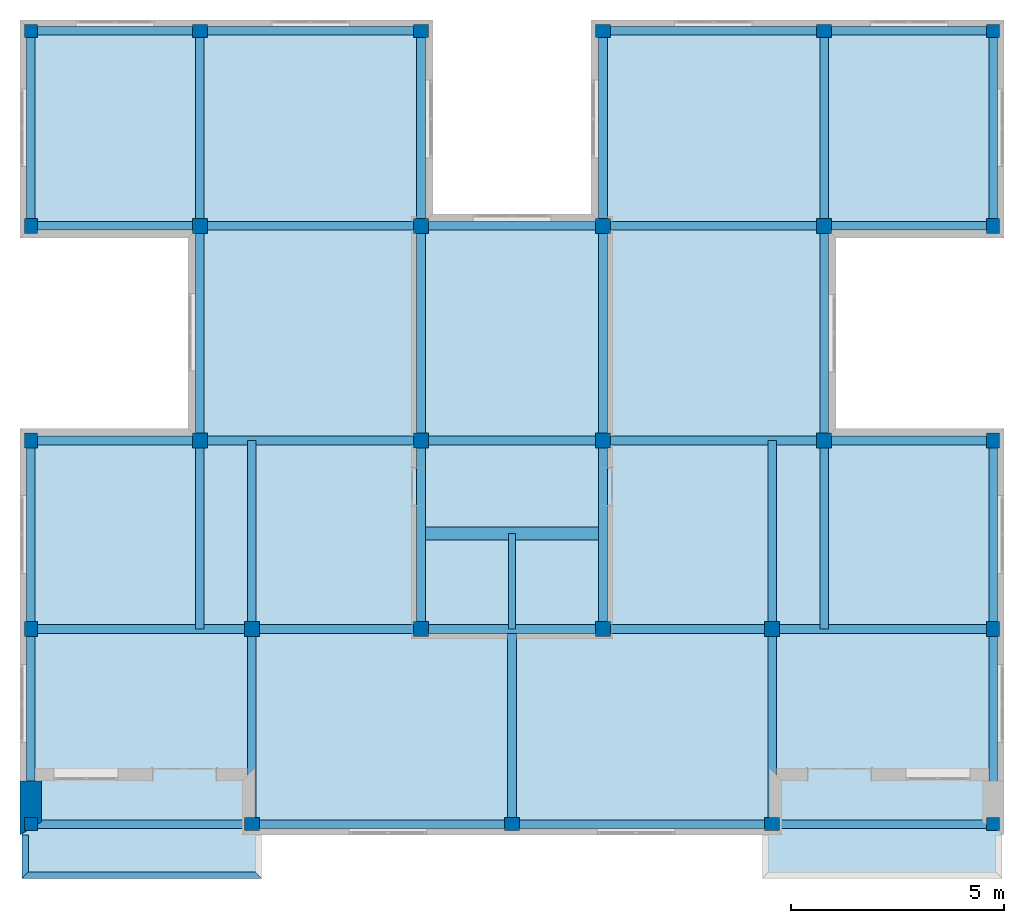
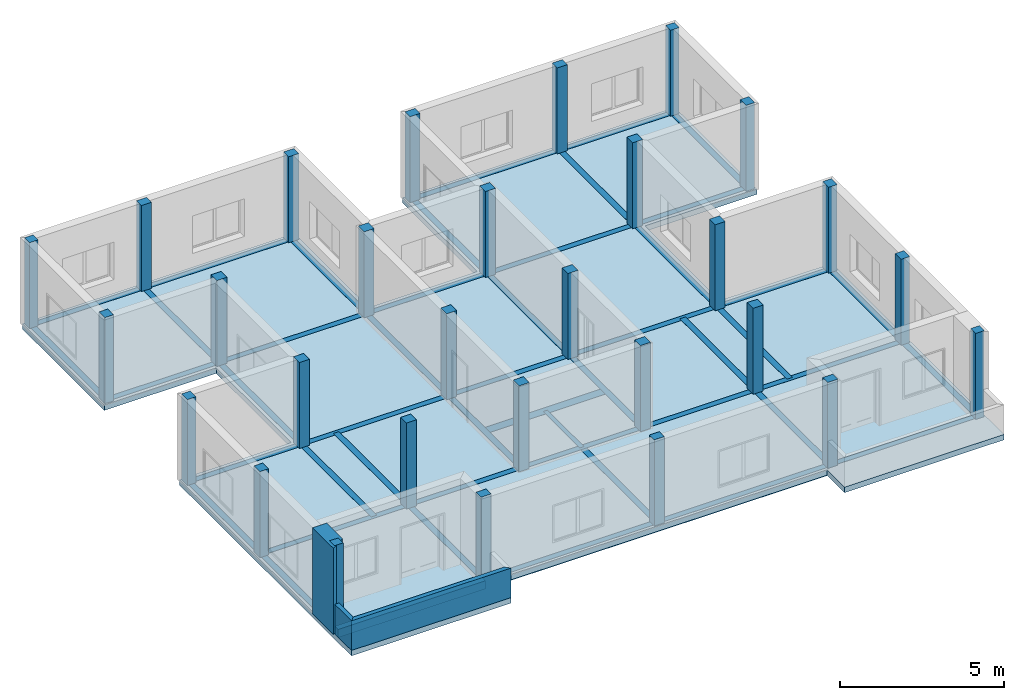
# One storey, part 1 of 6: 48 beams, 29 columns, 3 walls, 1 slab.
"""IFC2X3 building model written with IfcOpenShell, lengths in millimetres."""

from ifc_helpers import new_model, entity, si_unit, converted_unit, direction, frame, frame_2d, origin_with_axes, origin_2d_with_axis, place, context, subcontext, project, spatial, polyline, rectangle, outline, extrude, material, layer, layer_set, layer_usage, type_object, element, save


model = new_model("IFC2X3")

# Units and contexts
model_context = context("Model", 3, precision=1e-05, world=origin_with_axes(), true_north=direction((0.0, 1.0)))
body_context = subcontext(model_context, "Body", "Model", "MODEL_VIEW")
ifc_project = project(units=[si_unit("LENGTHUNIT", "METRE", prefix="MILLI"), si_unit("AREAUNIT", "SQUARE_METRE"), si_unit("VOLUMEUNIT", "CUBIC_METRE"), converted_unit("PLANEANGLEUNIT", "DEGREE", entity("IfcPlaneAngleMeasure", 0.017453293), si_unit("PLANEANGLEUNIT", "RADIAN"), dimensions=[0, 0, 0, 0, 0, 0, 0]), si_unit("SOLIDANGLEUNIT", "STERADIAN"), si_unit("MASSUNIT", "GRAM"), si_unit("TIMEUNIT", "SECOND"), si_unit("THERMODYNAMICTEMPERATUREUNIT", "DEGREE_CELSIUS"), si_unit("LUMINOUSINTENSITYUNIT", "LUMEN")], contexts=[model_context])

# Site, building, storey
site_placement = place(None, origin_with_axes())
site = spatial("IfcSite", under=ifc_project, at=site_placement, Name="Sitio", CompositionType="ELEMENT")
building_placement = place(site_placement, origin_with_axes())
building = spatial("IfcBuilding", under=site, at=building_placement, Name="Ejemplo_StruBIM", CompositionType="ELEMENT")
storey_placement = place(building_placement, frame((0.0, 0.0, 12801.6), z_axis=(0.0, 0.0, 1.0), x_axis=(1.0, 0.0, 0.0)))
storey = spatial("IfcBuildingStorey", under=building, at=storey_placement, Name="Fourth floor", CompositionType="ELEMENT", Elevation=12801.6)

# Columns
ifc_material_1 = material(Name="Hormigón armado")
column_type_1 = type_object("IfcColumnType", Name="12\"X12\"", PredefinedType="NOTDEFINED")
for number, where, z_axis, x_axis, name in (
    (1, (0.0, 0.0, 0.0), (0.0, 0.0, 1.0), (1.0, 0.0, 0.0), "P1"),
    (2, (0.0, 18592.8, 0.0), (0.0, 0.0, 1.0), (1.0, 0.0, 0.0), "P24"),
    (3, (22555.2, 0.0, 0.0), (0.0, 0.0, 1.0), (1.0, 0.0, 0.0), "P5"),
    (4, (22555.2, 18592.8, 0.0), (0.0, 0.0, 1.0), (1.0, 0.0, 0.0), "P29"),
):
    element("IfcColumn", number, at=place(storey_placement, frame(where, z_axis=z_axis, x_axis=x_axis)), inside=storey, type_object=column_type_1, material=ifc_material_1, Name=name, ObjectType="12\"X12\"", context=body_context, shape_type="SweptSolid", body=[
        extrude(rectangle(XDim=304.8, YDim=304.8, at=origin_2d_with_axis()), origin_with_axes(), (0.0, 0.0, 1.0), 3200.4),
    ])
column_type_2 = type_object("IfcColumnType", Name="12\"X14\"", PredefinedType="NOTDEFINED")
for number, where, z_axis, x_axis, name in (
    (5, (0.0, 4572.0, 0.0), (0.0, 0.0, 1.0), (1.0, 0.0, 0.0), "Pilar-004"),
    (6, (0.0, 8991.6, 0.0), (0.0, 0.0, 1.0), (1.0, 0.0, 0.0), "P12"),
    (7, (0.0, 14020.8, 0.0), (0.0, 0.0, 1.0), (1.0, 0.0, 0.0), "P18"),
    (8, (22555.2, 4572.0, 0.0), (0.0, 0.0, 1.0), (1.0, 0.0, 0.0), "Pilar-004"),
    (9, (22555.2, 8991.6, 0.0), (0.0, 0.0, 1.0), (1.0, 0.0, 0.0), "P17"),
    (10, (22555.2, 14020.8, 0.0), (0.0, 0.0, 1.0), (1.0, 0.0, 0.0), "P23"),
):
    element("IfcColumn", number, at=place(storey_placement, frame(where, z_axis=z_axis, x_axis=x_axis)), inside=storey, type_object=column_type_2, material=ifc_material_1, Name=name, ObjectType="12\"X14\"", context=body_context, shape_type="SweptSolid", body=[
        extrude(rectangle(XDim=304.8, YDim=355.6, at=origin_2d_with_axis()), origin_with_axes(), (0.0, 0.0, 1.0), 3200.4),
    ])
column_type_3 = type_object("IfcColumnType", Name="14\"X12\"", PredefinedType="NOTDEFINED")
for number, where, z_axis, x_axis, name in (
    (11, (5181.6, 0.0, 0.0), (0.0, 0.0, 1.0), (1.0, 0.0, 0.0), "P2"),
    (12, (11277.6, 0.0, 0.0), (0.0, 0.0, 1.0), (1.0, 0.0, 0.0), "P3"),
    (13, (9144.0, 18592.8, 0.0), (0.0, 0.0, 1.0), (1.0, 0.0, 0.0), "P26"),
    (14, (3962.4, 18592.8, 0.0), (0.0, 0.0, 1.0), (1.0, 0.0, 0.0), "P25"),
    (15, (17373.6, 0.0, 0.0), (0.0, 0.0, 1.0), (1.0, 0.0, 0.0), "P4"),
    (16, (13411.2, 18592.8, 0.0), (0.0, 0.0, 1.0), (1.0, 0.0, 0.0), "P27"),
    (17, (18592.8, 18592.8, 0.0), (0.0, 0.0, 1.0), (1.0, 0.0, 0.0), "P28"),
):
    element("IfcColumn", number, at=place(storey_placement, frame(where, z_axis=z_axis, x_axis=x_axis)), inside=storey, type_object=column_type_3, material=ifc_material_1, Name=name, ObjectType="14\"X12\"", context=body_context, shape_type="SweptSolid", body=[
        extrude(rectangle(XDim=355.6, YDim=304.8, at=origin_2d_with_axis()), origin_with_axes(), (0.0, 0.0, 1.0), 3200.4),
    ])
column_type_4 = type_object("IfcColumnType", Name="14\"X14\"", PredefinedType="NOTDEFINED")
for number, where, z_axis, x_axis, name in (
    (18, (5181.6, 4572.0, 0.0), (0.0, 0.0, 1.0), (1.0, 0.0, 0.0), "Pilar-004"),
    (19, (3962.4, 8991.6, 0.0), (0.0, 0.0, 1.0), (1.0, 0.0, 0.0), "P13"),
    (20, (3962.4, 14020.8, 0.0), (0.0, 0.0, 1.0), (1.0, 0.0, 0.0), "P19"),
    (21, (9144.0, 14020.8, 0.0), (0.0, 0.0, 1.0), (1.0, 0.0, 0.0), "P20"),
    (22, (9144.0, 8991.6, 0.0), (0.0, 0.0, 1.0), (1.0, 0.0, 0.0), "P14"),
    (23, (9144.0, 4572.0, 0.0), (0.0, 0.0, 1.0), (1.0, 0.0, 0.0), "Pilar-004"),
    (24, (17373.6, 4572.0, 0.0), (0.0, 0.0, 1.0), (1.0, 0.0, 0.0), "Pilar-004"),
    (25, (18592.8, 8991.6, 0.0), (0.0, 0.0, 1.0), (1.0, 0.0, 0.0), "P16"),
    (26, (18592.8, 14020.8, 0.0), (0.0, 0.0, 1.0), (1.0, 0.0, 0.0), "P22"),
    (27, (13411.2, 14020.8, 0.0), (0.0, 0.0, 1.0), (1.0, 0.0, 0.0), "P21"),
    (28, (13411.2, 8991.6, 0.0), (0.0, 0.0, 1.0), (1.0, 0.0, 0.0), "P15"),
    (29, (13411.2, 4572.0, 0.0), (0.0, 0.0, 1.0), (1.0, 0.0, 0.0), "Pilar-004"),
):
    element("IfcColumn", number, at=place(storey_placement, frame(where, z_axis=z_axis, x_axis=x_axis)), inside=storey, type_object=column_type_4, material=ifc_material_1, Name=name, ObjectType="14\"X14\"", context=body_context, shape_type="SweptSolid", body=[
        extrude(rectangle(XDim=355.6, YDim=355.6, at=origin_2d_with_axis()), origin_with_axes(), (0.0, 0.0, 1.0), 3200.4),
    ])

# Beams
beam_type_1 = type_object("IfcBeamType", Name="12\"X8\"", PredefinedType="NOTDEFINED")
beam_1_placement = place(storey_placement, frame((3962.4, 18592.8, 0.0), z_axis=(0.0, 0.0, 1.0), x_axis=(-1.0, 0.0, 0.0)))
element("IfcBeam", 30, at=beam_1_placement, inside=storey, type_object=beam_type_1, material=ifc_material_1, Name="Viga-028", ObjectType="12\"X8\"", context=body_context, shape_type="SweptSolid", body=[
    extrude(rectangle(XDim=304.8, YDim=203.2, at=frame_2d((-152.4, 0.0), x_axis=(1.0, 0.0))), frame((0.0, 0.0, 0.0), z_axis=(0.0, 1.0, 0.0), x_axis=(0.0, 0.0, 1.0)), (0.0, 0.0, 1.0), 4572.0),
])
beam_2_placement = place(storey_placement, frame((3962.4, 18592.8, 0.0), z_axis=(0.0, 0.0, 1.0), x_axis=(0.0, -1.0, 0.0)))
element("IfcBeam", 31, at=beam_2_placement, inside=storey, type_object=beam_type_1, material=ifc_material_1, Name="Viga-028", ObjectType="12\"X8\"", context=body_context, shape_type="SweptSolid", body=[
    extrude(rectangle(XDim=304.8, YDim=203.2, at=frame_2d((-152.4, 0.0), x_axis=(1.0, 0.0))), frame((0.0, 0.0, 0.0), z_axis=(0.0, 1.0, 0.0), x_axis=(0.0, 0.0, 1.0)), (0.0, 0.0, 1.0), 5181.6),
])
beam_3_placement = place(storey_placement, frame((3962.4, 18592.8, 0.0), z_axis=(0.0, 0.0, 1.0), x_axis=(0.0, 1.0, 0.0)))
element("IfcBeam", 32, at=beam_3_placement, inside=storey, type_object=beam_type_1, material=ifc_material_1, Name="Viga-029", ObjectType="12\"X8\"", context=body_context, shape_type="SweptSolid", body=[
    extrude(rectangle(XDim=304.8, YDim=203.2, at=frame_2d((-152.4, 0.0), x_axis=(1.0, 0.0))), frame((0.0, 0.0, 0.0), z_axis=(0.0, 1.0, 0.0), x_axis=(0.0, 0.0, 1.0)), (0.0, 0.0, 1.0), 3962.4),
])
beam_4_placement = place(storey_placement, frame((0.0, 18592.8, 0.0), z_axis=(0.0, 0.0, 1.0), x_axis=(-1.0, 0.0, 0.0)))
element("IfcBeam", 33, at=beam_4_placement, inside=storey, type_object=beam_type_1, material=ifc_material_1, Name="Viga-030", ObjectType="12\"X8\"", context=body_context, shape_type="SweptSolid", body=[
    extrude(rectangle(XDim=304.8, YDim=203.2, at=frame_2d((-152.4, 0.0), x_axis=(1.0, 0.0))), frame((0.0, 0.0, 0.0), z_axis=(0.0, 1.0, 0.0), x_axis=(0.0, 0.0, 1.0)), (0.0, 0.0, 1.0), 4572.0),
])
beam_5_placement = place(storey_placement, frame((0.0, 14020.8, 0.0), z_axis=(0.0, 0.0, 1.0), x_axis=(0.0, -1.0, 0.0)))
element("IfcBeam", 34, at=beam_5_placement, inside=storey, type_object=beam_type_1, material=ifc_material_1, Name="Viga-031", ObjectType="12\"X8\"", context=body_context, shape_type="SweptSolid", body=[
    extrude(rectangle(XDim=304.8, YDim=203.2, at=frame_2d((-152.4, 0.0), x_axis=(1.0, 0.0))), frame((0.0, 0.0, 0.0), z_axis=(0.0, 1.0, 0.0), x_axis=(0.0, 0.0, 1.0)), (0.0, 0.0, 1.0), 3962.4),
])
beam_6_placement = place(storey_placement, frame((3962.4, 14020.8, 0.0), z_axis=(0.0, 0.0, 1.0), x_axis=(0.0, -1.0, 0.0)))
element("IfcBeam", 35, at=beam_6_placement, inside=storey, type_object=beam_type_1, material=ifc_material_1, Name="Viga-032", ObjectType="12\"X8\"", context=body_context, shape_type="SweptSolid", body=[
    extrude(rectangle(XDim=304.8, YDim=203.2, at=frame_2d((-152.4, 0.0), x_axis=(1.0, 0.0))), frame((0.0, 0.0, 0.0), z_axis=(0.0, 1.0, 0.0), x_axis=(0.0, 0.0, 1.0)), (0.0, 0.0, 1.0), 5181.6),
])
beam_7_placement = place(storey_placement, frame((9144.0, 14020.8, 0.0), z_axis=(0.0, 0.0, 1.0), x_axis=(1.0, 0.0, 0.0)))
element("IfcBeam", 36, at=beam_7_placement, inside=storey, type_object=beam_type_1, material=ifc_material_1, Name="Viga-033", ObjectType="12\"X8\"", context=body_context, shape_type="SweptSolid", body=[
    extrude(rectangle(XDim=304.8, YDim=203.2, at=frame_2d((-152.4, 0.0), x_axis=(1.0, 0.0))), frame((0.0, 0.0, 0.0), z_axis=(0.0, 1.0, 0.0), x_axis=(0.0, 0.0, 1.0)), (0.0, 0.0, 1.0), 4572.0),
])
for number, where, z_axis, x_axis, name in (
    (37, (9144.0, 8991.6, 0.0), (0.0, 0.0, 1.0), (1.0, 0.0, 0.0), "Viga-034"),
    (38, (3962.4, 14020.8, 0.0), (0.0, 0.0, 1.0), (-1.0, 0.0, 0.0), "Viga-035"),
):
    element("IfcBeam", number, at=place(storey_placement, frame(where, z_axis=z_axis, x_axis=x_axis)), inside=storey, type_object=beam_type_1, material=ifc_material_1, Name=name, ObjectType="12\"X8\"", context=body_context, shape_type="SweptSolid", body=[
        extrude(rectangle(XDim=304.8, YDim=203.2, at=frame_2d((-152.4, 0.0), x_axis=(1.0, 0.0))), frame((0.0, 0.0, 0.0), z_axis=(0.0, 1.0, 0.0), x_axis=(0.0, 0.0, 1.0)), (0.0, 0.0, 1.0), 5029.2),
    ])
beam_8_placement = place(storey_placement, frame((0.0, 8991.6, 0.0), z_axis=(0.0, 0.0, 1.0), x_axis=(0.0, -1.0, 0.0)))
element("IfcBeam", 39, at=beam_8_placement, inside=storey, type_object=beam_type_1, material=ifc_material_1, Name="Viga-037", ObjectType="12\"X8\"", context=body_context, shape_type="SweptSolid", body=[
    extrude(rectangle(XDim=304.8, YDim=203.2, at=frame_2d((-152.4, 0.0), x_axis=(1.0, 0.0))), frame((0.0, 0.0, 0.0), z_axis=(0.0, 1.0, 0.0), x_axis=(0.0, 0.0, 1.0)), (0.0, 0.0, 1.0), 3962.4),
])
beam_9_placement = place(storey_placement, frame((3962.4, 8991.6, 0.0), z_axis=(0.0, 0.0, 1.0), x_axis=(0.0, -1.0, 0.0)))
element("IfcBeam", 40, at=beam_9_placement, inside=storey, type_object=beam_type_1, material=ifc_material_1, Name="Viga-038", ObjectType="12\"X8\"", context=body_context, shape_type="SweptSolid", body=[
    extrude(rectangle(XDim=304.8, YDim=203.2, at=frame_2d((-152.4, 0.0), x_axis=(1.0, 0.0))), frame((0.0, 0.0, 0.0), z_axis=(0.0, 1.0, 0.0), x_axis=(0.0, 0.0, 1.0)), (0.0, 0.0, 1.0), 5181.6),
])
beam_10_placement = place(storey_placement, frame((9144.0, 8991.6, 0.0), z_axis=(0.0, 0.0, 1.0), x_axis=(-1.0, 0.0, 0.0)))
element("IfcBeam", 41, at=beam_10_placement, inside=storey, type_object=beam_type_1, material=ifc_material_1, Name="Viga-039", ObjectType="12\"X8\"", context=body_context, shape_type="SweptSolid", body=[
    extrude(rectangle(XDim=304.8, YDim=203.2, at=frame_2d((-152.4, 0.0), x_axis=(1.0, 0.0))), frame((0.0, 0.0, 0.0), z_axis=(0.0, 1.0, 0.0), x_axis=(0.0, 0.0, 1.0)), (0.0, 0.0, 1.0), 4419.6),
])
beam_11_placement = place(storey_placement, frame((9144.0, 4572.0, 0.0), z_axis=(0.0, 0.0, 1.0), x_axis=(0.0, 1.0, 0.0)))
element("IfcBeam", 42, at=beam_11_placement, inside=storey, type_object=beam_type_1, material=ifc_material_1, Name="Viga-040", ObjectType="12\"X8\"", context=body_context, shape_type="SweptSolid", body=[
    extrude(rectangle(XDim=304.8, YDim=203.2, at=frame_2d((-152.4, 0.0), x_axis=(1.0, 0.0))), frame((0.0, 0.0, 0.0), z_axis=(0.0, 1.0, 0.0), x_axis=(0.0, 0.0, 1.0)), (0.0, 0.0, 1.0), 3962.4),
])
beam_12_placement = place(storey_placement, frame((5181.6, 4572.0, 0.0), z_axis=(0.0, 0.0, 1.0), x_axis=(0.0, 1.0, 0.0)))
element("IfcBeam", 43, at=beam_12_placement, inside=storey, type_object=beam_type_1, material=ifc_material_1, Name="Viga-041", ObjectType="12\"X8\"", context=body_context, shape_type="SweptSolid", body=[
    extrude(rectangle(XDim=304.8, YDim=203.2, at=frame_2d((-152.4, 0.0), x_axis=(1.0, 0.0))), frame((0.0, 0.0, 0.0), z_axis=(0.0, 1.0, 0.0), x_axis=(0.0, 0.0, 1.0)), (0.0, 0.0, 1.0), 5181.6),
])
beam_13_placement = place(storey_placement, frame((0.0, 4572.0, 0.0), z_axis=(0.0, 0.0, 1.0), x_axis=(1.0, 0.0, 0.0)))
element("IfcBeam", 44, at=beam_13_placement, inside=storey, type_object=beam_type_1, material=ifc_material_1, Name="Viga-042", ObjectType="12\"X8\"", context=body_context, shape_type="SweptSolid", body=[
    extrude(rectangle(XDim=304.8, YDim=203.2, at=frame_2d((-152.4, 0.0), x_axis=(1.0, 0.0))), frame((0.0, 0.0, 0.0), z_axis=(0.0, 1.0, 0.0), x_axis=(0.0, 0.0, 1.0)), (0.0, 0.0, 1.0), 4419.6),
])
beam_14_placement = place(storey_placement, frame((0.0, 4572.0, 0.0), z_axis=(0.0, 0.0, 1.0), x_axis=(-1.0, 0.0, 0.0)))
element("IfcBeam", 45, at=beam_14_placement, inside=storey, type_object=beam_type_1, material=ifc_material_1, Name="Viga-043", ObjectType="12\"X8\"", context=body_context, shape_type="SweptSolid", body=[
    extrude(rectangle(XDim=304.8, YDim=203.2, at=frame_2d((-152.4, 0.0), x_axis=(1.0, 0.0))), frame((0.0, 0.0, 0.0), z_axis=(0.0, 1.0, 0.0), x_axis=(0.0, 0.0, 1.0)), (0.0, 0.0, 1.0), 4572.0),
])
beam_15_placement = place(storey_placement, frame((0.0, 0.0, 0.0), z_axis=(0.0, 0.0, 1.0), x_axis=(0.0, -1.0, 0.0)))
element("IfcBeam", 46, at=beam_15_placement, inside=storey, type_object=beam_type_1, material=ifc_material_1, Name="Viga-044", ObjectType="12\"X8\"", context=body_context, shape_type="SweptSolid", body=[
    extrude(rectangle(XDim=304.8, YDim=203.2, at=frame_2d((-152.4, 0.0), x_axis=(1.0, 0.0))), frame((0.0, 0.0, 0.0), z_axis=(0.0, 1.0, 0.0), x_axis=(0.0, 0.0, 1.0)), (0.0, 0.0, 1.0), 5181.6),
])
beam_16_placement = place(storey_placement, frame((5181.6, 0.0, 0.0), z_axis=(0.0, 0.0, 1.0), x_axis=(0.0, -1.0, 0.0)))
element("IfcBeam", 47, at=beam_16_placement, inside=storey, type_object=beam_type_1, material=ifc_material_1, Name="Viga-045", ObjectType="12\"X8\"", context=body_context, shape_type="SweptSolid", body=[
    extrude(rectangle(XDim=304.8, YDim=203.2, at=frame_2d((-152.4, 0.0), x_axis=(1.0, 0.0))), frame((0.0, 0.0, 0.0), z_axis=(0.0, 1.0, 0.0), x_axis=(0.0, 0.0, 1.0)), (0.0, 0.0, 1.0), 6096.0),
])
for number, where, z_axis, x_axis, name in (
    (48, (5181.6, 0.0, 0.0), (0.0, 0.0, 1.0), (1.0, 0.0, 0.0), "Viga-046"),
    (49, (18592.8, 18592.8, 0.0), (0.0, 0.0, 1.0), (-1.0, 0.0, 0.0), "Viga-028"),
):
    element("IfcBeam", number, at=place(storey_placement, frame(where, z_axis=z_axis, x_axis=x_axis)), inside=storey, type_object=beam_type_1, material=ifc_material_1, Name=name, ObjectType="12\"X8\"", context=body_context, shape_type="SweptSolid", body=[
        extrude(rectangle(XDim=304.8, YDim=203.2, at=frame_2d((-152.4, 0.0), x_axis=(1.0, 0.0))), frame((0.0, 0.0, 0.0), z_axis=(0.0, 1.0, 0.0), x_axis=(0.0, 0.0, 1.0)), (0.0, 0.0, 1.0), 4572.0),
    ])
beam_17_placement = place(storey_placement, frame((18592.8, 18592.8, 0.0), z_axis=(0.0, 0.0, 1.0), x_axis=(0.0, 1.0, 0.0)))
element("IfcBeam", 50, at=beam_17_placement, inside=storey, type_object=beam_type_1, material=ifc_material_1, Name="Viga-028", ObjectType="12\"X8\"", context=body_context, shape_type="SweptSolid", body=[
    extrude(rectangle(XDim=304.8, YDim=203.2, at=frame_2d((-152.4, 0.0), x_axis=(1.0, 0.0))), frame((0.0, 0.0, 0.0), z_axis=(0.0, 1.0, 0.0), x_axis=(0.0, 0.0, 1.0)), (0.0, 0.0, 1.0), 5181.6),
])
beam_18_placement = place(storey_placement, frame((18592.8, 18592.8, 0.0), z_axis=(0.0, 0.0, 1.0), x_axis=(0.0, -1.0, 0.0)))
element("IfcBeam", 51, at=beam_18_placement, inside=storey, type_object=beam_type_1, material=ifc_material_1, Name="Viga-029", ObjectType="12\"X8\"", context=body_context, shape_type="SweptSolid", body=[
    extrude(rectangle(XDim=304.8, YDim=203.2, at=frame_2d((-152.4, 0.0), x_axis=(1.0, 0.0))), frame((0.0, 0.0, 0.0), z_axis=(0.0, 1.0, 0.0), x_axis=(0.0, 0.0, 1.0)), (0.0, 0.0, 1.0), 3962.4),
])
beam_19_placement = place(storey_placement, frame((22555.2, 18592.8, 0.0), z_axis=(0.0, 0.0, 1.0), x_axis=(-1.0, 0.0, 0.0)))
element("IfcBeam", 52, at=beam_19_placement, inside=storey, type_object=beam_type_1, material=ifc_material_1, Name="Viga-030", ObjectType="12\"X8\"", context=body_context, shape_type="SweptSolid", body=[
    extrude(rectangle(XDim=304.8, YDim=203.2, at=frame_2d((-152.4, 0.0), x_axis=(1.0, 0.0))), frame((0.0, 0.0, 0.0), z_axis=(0.0, 1.0, 0.0), x_axis=(0.0, 0.0, 1.0)), (0.0, 0.0, 1.0), 4572.0),
])
beam_20_placement = place(storey_placement, frame((22555.2, 14020.8, 0.0), z_axis=(0.0, 0.0, 1.0), x_axis=(0.0, 1.0, 0.0)))
element("IfcBeam", 53, at=beam_20_placement, inside=storey, type_object=beam_type_1, material=ifc_material_1, Name="Viga-031", ObjectType="12\"X8\"", context=body_context, shape_type="SweptSolid", body=[
    extrude(rectangle(XDim=304.8, YDim=203.2, at=frame_2d((-152.4, 0.0), x_axis=(1.0, 0.0))), frame((0.0, 0.0, 0.0), z_axis=(0.0, 1.0, 0.0), x_axis=(0.0, 0.0, 1.0)), (0.0, 0.0, 1.0), 3962.4),
])
beam_21_placement = place(storey_placement, frame((18592.8, 14020.8, 0.0), z_axis=(0.0, 0.0, 1.0), x_axis=(0.0, 1.0, 0.0)))
element("IfcBeam", 54, at=beam_21_placement, inside=storey, type_object=beam_type_1, material=ifc_material_1, Name="Viga-032", ObjectType="12\"X8\"", context=body_context, shape_type="SweptSolid", body=[
    extrude(rectangle(XDim=304.8, YDim=203.2, at=frame_2d((-152.4, 0.0), x_axis=(1.0, 0.0))), frame((0.0, 0.0, 0.0), z_axis=(0.0, 1.0, 0.0), x_axis=(0.0, 0.0, 1.0)), (0.0, 0.0, 1.0), 5181.6),
])
beam_22_placement = place(storey_placement, frame((13411.2, 14020.8, 0.0), z_axis=(0.0, 0.0, 1.0), x_axis=(1.0, 0.0, 0.0)))
element("IfcBeam", 55, at=beam_22_placement, inside=storey, type_object=beam_type_1, material=ifc_material_1, Name="Viga-033", ObjectType="12\"X8\"", context=body_context, shape_type="SweptSolid", body=[
    extrude(rectangle(XDim=304.8, YDim=203.2, at=frame_2d((-152.4, 0.0), x_axis=(1.0, 0.0))), frame((0.0, 0.0, 0.0), z_axis=(0.0, 1.0, 0.0), x_axis=(0.0, 0.0, 1.0)), (0.0, 0.0, 1.0), 4572.0),
])
for number, where, z_axis, x_axis, name in (
    (56, (13411.2, 8991.6, 0.0), (0.0, 0.0, 1.0), (1.0, 0.0, 0.0), "Viga-034"),
    (57, (18592.8, 14020.8, 0.0), (0.0, 0.0, 1.0), (-1.0, 0.0, 0.0), "Viga-035"),
):
    element("IfcBeam", number, at=place(storey_placement, frame(where, z_axis=z_axis, x_axis=x_axis)), inside=storey, type_object=beam_type_1, material=ifc_material_1, Name=name, ObjectType="12\"X8\"", context=body_context, shape_type="SweptSolid", body=[
        extrude(rectangle(XDim=304.8, YDim=203.2, at=frame_2d((-152.4, 0.0), x_axis=(1.0, 0.0))), frame((0.0, 0.0, 0.0), z_axis=(0.0, 1.0, 0.0), x_axis=(0.0, 0.0, 1.0)), (0.0, 0.0, 1.0), 5029.2),
    ])
beam_23_placement = place(storey_placement, frame((22555.2, 8991.6, 0.0), z_axis=(0.0, 0.0, 1.0), x_axis=(0.0, 1.0, 0.0)))
element("IfcBeam", 58, at=beam_23_placement, inside=storey, type_object=beam_type_1, material=ifc_material_1, Name="Viga-037", ObjectType="12\"X8\"", context=body_context, shape_type="SweptSolid", body=[
    extrude(rectangle(XDim=304.8, YDim=203.2, at=frame_2d((-152.4, 0.0), x_axis=(1.0, 0.0))), frame((0.0, 0.0, 0.0), z_axis=(0.0, 1.0, 0.0), x_axis=(0.0, 0.0, 1.0)), (0.0, 0.0, 1.0), 3962.4),
])
beam_24_placement = place(storey_placement, frame((18592.8, 8991.6, 0.0), z_axis=(0.0, 0.0, 1.0), x_axis=(0.0, 1.0, 0.0)))
element("IfcBeam", 59, at=beam_24_placement, inside=storey, type_object=beam_type_1, material=ifc_material_1, Name="Viga-038", ObjectType="12\"X8\"", context=body_context, shape_type="SweptSolid", body=[
    extrude(rectangle(XDim=304.8, YDim=203.2, at=frame_2d((-152.4, 0.0), x_axis=(1.0, 0.0))), frame((0.0, 0.0, 0.0), z_axis=(0.0, 1.0, 0.0), x_axis=(0.0, 0.0, 1.0)), (0.0, 0.0, 1.0), 5181.6),
])
beam_25_placement = place(storey_placement, frame((13411.2, 8991.6, 0.0), z_axis=(0.0, 0.0, 1.0), x_axis=(-1.0, 0.0, 0.0)))
element("IfcBeam", 60, at=beam_25_placement, inside=storey, type_object=beam_type_1, material=ifc_material_1, Name="Viga-039", ObjectType="12\"X8\"", context=body_context, shape_type="SweptSolid", body=[
    extrude(rectangle(XDim=304.8, YDim=203.2, at=frame_2d((-152.4, 0.0), x_axis=(1.0, 0.0))), frame((0.0, 0.0, 0.0), z_axis=(0.0, 1.0, 0.0), x_axis=(0.0, 0.0, 1.0)), (0.0, 0.0, 1.0), 4419.6),
])
beam_26_placement = place(storey_placement, frame((13411.2, 4572.0, 0.0), z_axis=(0.0, 0.0, 1.0), x_axis=(0.0, -1.0, 0.0)))
element("IfcBeam", 61, at=beam_26_placement, inside=storey, type_object=beam_type_1, material=ifc_material_1, Name="Viga-040", ObjectType="12\"X8\"", context=body_context, shape_type="SweptSolid", body=[
    extrude(rectangle(XDim=304.8, YDim=203.2, at=frame_2d((-152.4, 0.0), x_axis=(1.0, 0.0))), frame((0.0, 0.0, 0.0), z_axis=(0.0, 1.0, 0.0), x_axis=(0.0, 0.0, 1.0)), (0.0, 0.0, 1.0), 3962.4),
])
beam_27_placement = place(storey_placement, frame((17373.6, 4572.0, 0.0), z_axis=(0.0, 0.0, 1.0), x_axis=(0.0, -1.0, 0.0)))
element("IfcBeam", 62, at=beam_27_placement, inside=storey, type_object=beam_type_1, material=ifc_material_1, Name="Viga-041", ObjectType="12\"X8\"", context=body_context, shape_type="SweptSolid", body=[
    extrude(rectangle(XDim=304.8, YDim=203.2, at=frame_2d((-152.4, 0.0), x_axis=(1.0, 0.0))), frame((0.0, 0.0, 0.0), z_axis=(0.0, 1.0, 0.0), x_axis=(0.0, 0.0, 1.0)), (0.0, 0.0, 1.0), 5181.6),
])
beam_28_placement = place(storey_placement, frame((22555.2, 4572.0, 0.0), z_axis=(0.0, 0.0, 1.0), x_axis=(1.0, 0.0, 0.0)))
element("IfcBeam", 63, at=beam_28_placement, inside=storey, type_object=beam_type_1, material=ifc_material_1, Name="Viga-042", ObjectType="12\"X8\"", context=body_context, shape_type="SweptSolid", body=[
    extrude(rectangle(XDim=304.8, YDim=203.2, at=frame_2d((-152.4, 0.0), x_axis=(1.0, 0.0))), frame((0.0, 0.0, 0.0), z_axis=(0.0, 1.0, 0.0), x_axis=(0.0, 0.0, 1.0)), (0.0, 0.0, 1.0), 4419.6),
])
beam_29_placement = place(storey_placement, frame((22555.2, 4572.0, 0.0), z_axis=(0.0, 0.0, 1.0), x_axis=(-1.0, 0.0, 0.0)))
element("IfcBeam", 64, at=beam_29_placement, inside=storey, type_object=beam_type_1, material=ifc_material_1, Name="Viga-043", ObjectType="12\"X8\"", context=body_context, shape_type="SweptSolid", body=[
    extrude(rectangle(XDim=304.8, YDim=203.2, at=frame_2d((-152.4, 0.0), x_axis=(1.0, 0.0))), frame((0.0, 0.0, 0.0), z_axis=(0.0, 1.0, 0.0), x_axis=(0.0, 0.0, 1.0)), (0.0, 0.0, 1.0), 4572.0),
])
beam_30_placement = place(storey_placement, frame((22555.2, 0.0, 0.0), z_axis=(0.0, 0.0, 1.0), x_axis=(0.0, 1.0, 0.0)))
element("IfcBeam", 65, at=beam_30_placement, inside=storey, type_object=beam_type_1, material=ifc_material_1, Name="Viga-044", ObjectType="12\"X8\"", context=body_context, shape_type="SweptSolid", body=[
    extrude(rectangle(XDim=304.8, YDim=203.2, at=frame_2d((-152.4, 0.0), x_axis=(1.0, 0.0))), frame((0.0, 0.0, 0.0), z_axis=(0.0, 1.0, 0.0), x_axis=(0.0, 0.0, 1.0)), (0.0, 0.0, 1.0), 5181.6),
])
beam_31_placement = place(storey_placement, frame((17373.6, 0.0, 0.0), z_axis=(0.0, 0.0, 1.0), x_axis=(0.0, 1.0, 0.0)))
element("IfcBeam", 66, at=beam_31_placement, inside=storey, type_object=beam_type_1, material=ifc_material_1, Name="Viga-045", ObjectType="12\"X8\"", context=body_context, shape_type="SweptSolid", body=[
    extrude(rectangle(XDim=304.8, YDim=203.2, at=frame_2d((-152.4, 0.0), x_axis=(1.0, 0.0))), frame((0.0, 0.0, 0.0), z_axis=(0.0, 1.0, 0.0), x_axis=(0.0, 0.0, 1.0)), (0.0, 0.0, 1.0), 6096.0),
])
beam_32_placement = place(storey_placement, frame((17373.6, 0.0, 0.0), z_axis=(0.0, 0.0, 1.0), x_axis=(1.0, 0.0, 0.0)))
element("IfcBeam", 67, at=beam_32_placement, inside=storey, type_object=beam_type_1, material=ifc_material_1, Name="Viga-046", ObjectType="12\"X8\"", context=body_context, shape_type="SweptSolid", body=[
    extrude(rectangle(XDim=304.8, YDim=203.2, at=frame_2d((-152.4, 0.0), x_axis=(1.0, 0.0))), frame((0.0, 0.0, 0.0), z_axis=(0.0, 1.0, 0.0), x_axis=(0.0, 0.0, 1.0)), (0.0, 0.0, 1.0), 4572.0),
])
beam_33_placement = place(storey_placement, frame((13411.2, 4572.0, 0.0), z_axis=(0.0, 0.0, 1.0), x_axis=(0.0, 1.0, 0.0)))
element("IfcBeam", 68, at=beam_33_placement, inside=storey, type_object=beam_type_1, material=ifc_material_1, Name="Viga-047", ObjectType="12\"X8\"", context=body_context, shape_type="SweptSolid", body=[
    extrude(rectangle(XDim=304.8, YDim=203.2, at=frame_2d((-152.4, 0.0), x_axis=(1.0, 0.0))), frame((0.0, 0.0, 0.0), z_axis=(0.0, 1.0, 0.0), x_axis=(0.0, 0.0, 1.0)), (0.0, 0.0, 1.0), 4267.2),
])
beam_34_placement = place(storey_placement, frame((11277.6, 4572.0, 0.0), z_axis=(0.0, 0.0, 1.0), x_axis=(-1.0, 0.0, 0.0)))
element("IfcBeam", 69, at=beam_34_placement, inside=storey, type_object=beam_type_1, material=ifc_material_1, Name="Viga-048", ObjectType="12\"X8\"", context=body_context, shape_type="SweptSolid", body=[
    extrude(rectangle(XDim=304.8, YDim=203.2, at=frame_2d((-152.4, 0.0), x_axis=(1.0, 0.0))), frame((0.0, 0.0, 0.0), z_axis=(0.0, 1.0, 0.0), x_axis=(0.0, 0.0, 1.0)), (0.0, 0.0, 1.0), 4572.0),
])
for number, where, z_axis, x_axis, name in (
    (70, (9144.0, 8991.6, 0.0), (0.0, 0.0, 1.0), (0.0, -1.0, 0.0), "Viga-049"),
    (71, (13411.2, 14020.8, 0.0), (0.0, 0.0, 1.0), (0.0, 1.0, 0.0), "Viga-050"),
):
    element("IfcBeam", number, at=place(storey_placement, frame(where, z_axis=z_axis, x_axis=x_axis)), inside=storey, type_object=beam_type_1, material=ifc_material_1, Name=name, ObjectType="12\"X8\"", context=body_context, shape_type="SweptSolid", body=[
        extrude(rectangle(XDim=304.8, YDim=203.2, at=frame_2d((-152.4, 0.0), x_axis=(1.0, 0.0))), frame((0.0, 0.0, 0.0), z_axis=(0.0, 1.0, 0.0), x_axis=(0.0, 0.0, 1.0)), (0.0, 0.0, 1.0), 4267.2),
    ])
for number, where, z_axis, x_axis, name in (
    (72, (5181.6, 4572.0, 0.0), (0.0, 0.0, 1.0), (1.0, 0.0, 0.0), "Viga-040"),
    (73, (3962.4, 8991.6, 0.0), (0.0, 0.0, 1.0), (-1.0, 0.0, 0.0), "Viga-041"),
    (74, (17373.6, 4572.0, 0.0), (0.0, 0.0, 1.0), (1.0, 0.0, 0.0), "Viga-042"),
    (75, (18592.8, 8991.6, 0.0), (0.0, 0.0, 1.0), (-1.0, 0.0, 0.0), "Viga-043"),
):
    element("IfcBeam", number, at=place(storey_placement, frame(where, z_axis=z_axis, x_axis=x_axis)), inside=storey, type_object=beam_type_1, material=ifc_material_1, Name=name, ObjectType="12\"X8\"", context=body_context, shape_type="SweptSolid", body=[
        extrude(rectangle(XDim=304.8, YDim=203.2, at=frame_2d((-152.4, 0.0), x_axis=(1.0, 0.0))), frame((0.0, 0.0, 0.0), z_axis=(0.0, 1.0, 0.0), x_axis=(0.0, 0.0, 1.0)), (0.0, 0.0, 1.0), 4419.6),
    ])
beam_type_2 = type_object("IfcBeamType", Name="8\"X12\"", PredefinedType="NOTDEFINED")
beam_35_placement = place(storey_placement, frame((9144.0, 6807.2, 0.0), z_axis=(0.0, 0.0, 1.0), x_axis=(0.0, -1.0, 0.0)))
element("IfcBeam", 76, at=beam_35_placement, inside=storey, type_object=beam_type_2, material=ifc_material_1, Name="Viga-036", ObjectType="8\"X12\"", context=body_context, shape_type="SweptSolid", body=[
    extrude(rectangle(XDim=203.2, YDim=304.8, at=frame_2d((-101.6, 0.0), x_axis=(1.0, 0.0))), frame((0.0, 0.0, 0.0), z_axis=(0.0, 1.0, 0.0), x_axis=(0.0, 0.0, 1.0)), (0.0, 0.0, 1.0), 4267.2),
])
beam_type_3 = type_object("IfcBeamType", Name="8\"X6\"", PredefinedType="NOTDEFINED")
beam_36_placement = place(storey_placement, frame((11277.6, 4572.0, 0.0), z_axis=(0.0, 0.0, 1.0), x_axis=(1.0, 0.0, 0.0)))
element("IfcBeam", 77, at=beam_36_placement, inside=storey, type_object=beam_type_3, material=ifc_material_1, Name="Viga-035", ObjectType="8\"X6\"", context=body_context, shape_type="SweptSolid", body=[
    extrude(rectangle(XDim=203.2, YDim=152.4, at=frame_2d((-101.6, 0.0), x_axis=(1.0, 0.0))), frame((0.0, 0.0, 0.0), z_axis=(0.0, 1.0, 0.0), x_axis=(0.0, 0.0, 1.0)), (0.0, 0.0, 1.0), 2235.2),
])

# Slab
ifc_layer_1 = layer(ifc_material_1, 203.2, ventilated="UNKNOWN")
ifc_layer_set_1 = layer_set([ifc_layer_1], Name="Hormigón armado 203.2")
ifc_layer_usage_1 = layer_usage(ifc_layer_set_1, "AXIS3", "NEGATIVE", 203.2)
slab_placement = place(storey_placement, frame((-203.2, -1270.0, -203.2), z_axis=(0.0, 0.0, 1.0), x_axis=(1.0, 0.0, 0.0)))
element("IfcSlab", 78, at=slab_placement, inside=storey, material=ifc_layer_usage_1, Name="Forj-003", PredefinedType="FLOOR", context=body_context, shape_type="SweptSolid", body=[
    extrude(outline(polyline([(0.0, 0.0), (5613.4, 0.0), (5613.4, 1066.8), (17348.2, 1066.8), (17348.2, 0.0), (22961.6, 0.0), (22961.6, 10490.2), (19024.6, 10490.2), (19024.6, 15062.2), (22961.6, 15062.2), (22961.6, 20066.0), (13385.8, 20066.0), (13385.8, 15519.4), (9575.8, 15519.4), (9575.8, 20066.0), (0.0, 20066.0), (0.0, 15062.2), (3937.0, 15062.2), (3937.0, 10490.2), (0.0, 10490.2), (0.0, 0.0)])), origin_with_axes(), (0.0, 0.0, 1.0), 203.2),
])

# Walls
ifc_material_2 = material(Name="Bloque mampostería")
ifc_layer_2 = layer(ifc_material_2, 150.0, ventilated="UNKNOWN")
ifc_layer_set_2 = layer_set([ifc_layer_2], Name="Bloque mampostería 150")
ifc_layer_usage_2 = layer_usage(ifc_layer_set_2, "AXIS2", "NEGATIVE", 0.0)
wall_type_1 = type_object("IfcWallType", Name="Bloque mampostería 6\"", PredefinedType="NOTDEFINED")
wall_1_placement = place(storey_placement, frame((-203.2, -1270.0, 0.0), z_axis=(0.0, 0.0, 1.0), x_axis=(0.0, 1.0, 0.0)))
element("IfcWallStandardCase", 79, at=wall_1_placement, inside=storey, type_object=wall_type_1, material=ifc_layer_usage_2, Name="Muro-017", context=body_context, shape_type="SweptSolid", body=[
    extrude(outline(polyline([(150.0, -150.0), (1016.0, -150.0), (1016.0, 0.0), (0.0, 0.0), (150.0, -150.0)])), origin_with_axes(), (0.0, 0.0, 1.0), 1100.0),
])
ifc_layer_usage_3 = layer_usage(ifc_layer_set_2, "AXIS2", "NEGATIVE", 0.0)
wall_2_placement = place(storey_placement, frame((5410.2, -1270.0, 0.0), z_axis=(0.0, 0.0, 1.0), x_axis=(-1.0, 0.0, 0.0)))
element("IfcWallStandardCase", 80, at=wall_2_placement, inside=storey, type_object=wall_type_1, material=ifc_layer_usage_3, Name="Muro-016", context=body_context, shape_type="SweptSolid", body=[
    extrude(outline(polyline([(150.0, -150.0), (5463.4, -150.0), (5613.4, 0.0), (0.0, 0.0), (150.0, -150.0)])), origin_with_axes(), (0.0, 0.0, 1.0), 1100.0),
])
ifc_layer_3 = layer(ifc_material_2, 500.0, ventilated="UNKNOWN")
ifc_layer_set_3 = layer_set([ifc_layer_3], Name="Bloque mampostería 500")
ifc_layer_usage_4 = layer_usage(ifc_layer_set_3, "AXIS2", "POSITIVE", 0.0)
wall_type_2 = type_object("IfcWallType", Name="Bloque mampostería 19 3/4\"", PredefinedType="NOTDEFINED")
wall_3_placement = place(storey_placement, frame((-254.0, 1016.0, 0.0), z_axis=(0.0, 0.0, 1.0), x_axis=(0.0, -1.0, 0.0)))
element("IfcWallStandardCase", 81, at=wall_3_placement, inside=storey, type_object=wall_type_2, material=ifc_layer_usage_4, Name="Muro-014", context=body_context, shape_type="SweptSolid", body=[
    extrude(outline(polyline([(0.0, 0.0), (1270.0, 0.0), (970.0, 500.0), (0.0, 500.0), (0.0, 0.0)])), origin_with_axes(), (0.0, 0.0, 1.0), 3200.4),
])

save(model, "model.ifc")
